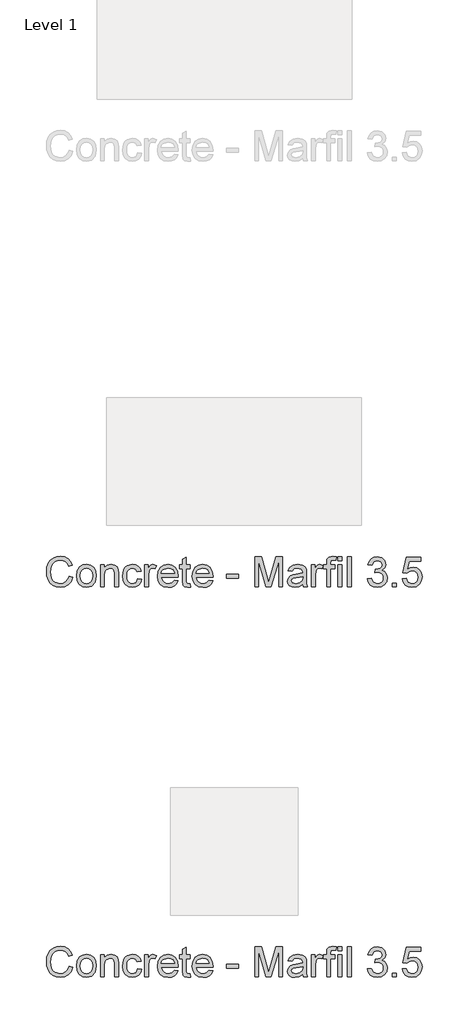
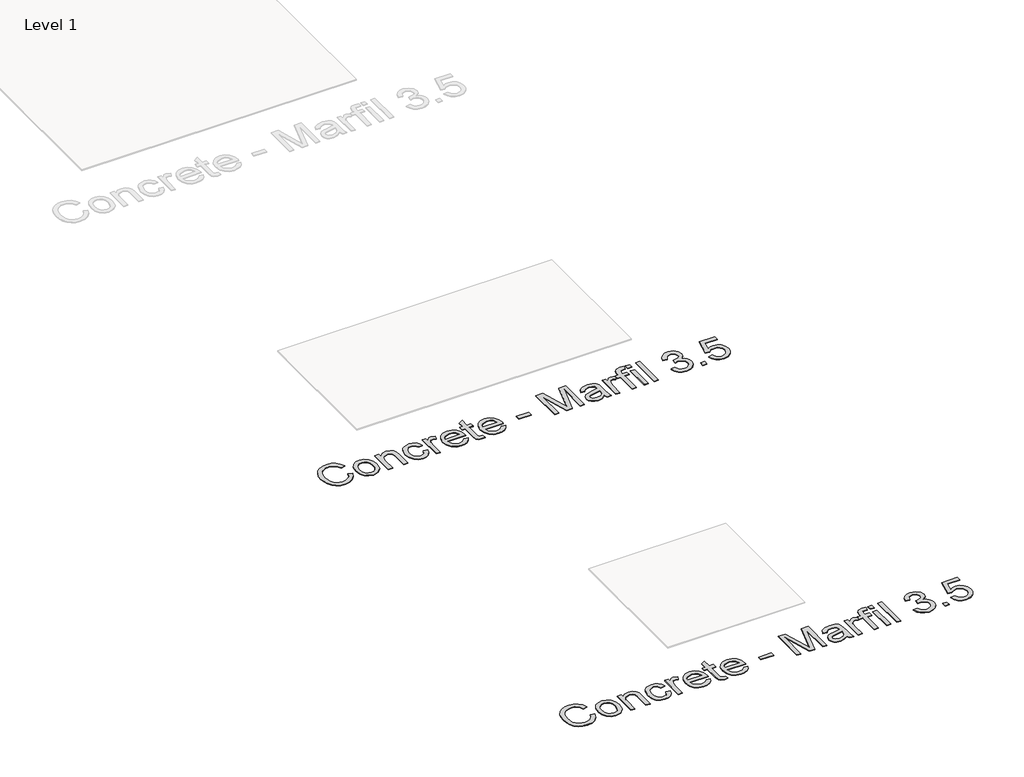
# One storey, part 41 of 80: 2 proxies.
"""IFC4 building model written with IfcOpenShell, lengths in millimetres."""

from ifc_helpers import new_model, si_unit, origin, origin_with_axes, place, context, project, spatial, polyline, outline, extrude, element, save

model = new_model("IFC4")

# Units and contexts
model_context = context("Model", 3, world=origin())
ifc_project = project(units=[si_unit("LENGTHUNIT", "METRE", prefix="MILLI")], contexts=[model_context])

# Site, building, storey
site = spatial("IfcSite", under=ifc_project)
building = spatial("IfcBuilding", under=site)
storey = spatial("IfcBuildingStorey", under=building, Name="Level 1", Elevation=0.0)

# Proxies
placement = place(None, origin())
element("IfcBuildingElementProxy", 1, Name="24\" Arial", ObjectType="24\" Arial", at=placement, inside=storey, context=model_context, shape_type="SweptSolid", body=[
    extrude(outline(polyline([(-26653.5376464, 7154.1947573), (-26638.7684156, 7150.387065), (-26645.5833194, 7133.1767284), (-26656.278031, 7120.6034111), (-26670.3261079, 7112.9123053), (-26687.2011079, 7110.3486034), (-26704.3321175, 7112.2885073), (-26717.9366848, 7118.1082188), (-26728.3645694, 7127.605815), (-26735.965531, 7140.5793727), (-26740.606156, 7155.8317765), (-26742.153031, 7172.1659111), (-26740.4042329, 7189.3942765), (-26735.1578387, 7204.2716803), (-26726.6878867, 7216.3257669), (-26715.2684156, 7225.0841803), (-26701.7251464, 7230.417113), (-26686.8838002, 7232.1947573), (-26670.6902906, 7229.8942765), (-26657.3020694, 7222.9928342), (-26647.137406, 7211.9159111), (-26640.6145694, 7197.088988), (-26655.3838002, 7193.5697573), (-26660.5039925, 7204.34019), (-26667.4991848, 7211.7284111), (-26676.4559156, 7216.0012477), (-26687.4607233, 7217.4255265), (-26700.1458194, 7215.8461996), (-26710.5664925, 7211.1082188), (-26718.4739444, 7203.7091803), (-26723.6193771, 7194.1466803), (-26727.3838002, 7172.1947573), (-26722.9270694, 7146.7524496), (-26717.2299541, 7137.2512477), (-26709.0520694, 7130.4976419), (-26688.6722617, 7125.1178342), (-26676.3441367, 7126.949565), (-26666.0713002, 7132.4447573), (-26658.3152906, 7141.5457188), (-26653.5376464, 7154.1947573)])), origin_with_axes(), (0.0, 0.0, 1.0), 2.0),
    extrude(outline(polyline([(-26623.9991848, 7155.5793727), (-26620.8044733, 7176.5000457), (-26611.2203387, 7191.2043727), (-26599.3789925, 7198.4086996), (-26585.2011079, 7200.8101419), (-26569.6854829, 7197.885863), (-26557.2924541, 7189.1130265), (-26549.168656, 7175.18394), (-26546.4607233, 7156.7909111), (-26551.2491848, 7130.512065), (-26565.1963002, 7115.6418727), (-26585.2011079, 7110.3486034), (-26600.9042329, 7113.262065), (-26613.2828387, 7122.0024496), (-26621.3200983, 7136.2236034), (-26623.9991848, 7155.5793727)]), holes=[polyline([(-26609.2299541, 7155.6082188), (-26607.5208194, 7142.2416323), (-26602.3934156, 7132.7187957), (-26594.6770694, 7127.0180746), (-26585.2011079, 7125.1178342), (-26575.7684156, 7127.0288919), (-26568.0664925, 7132.762065), (-26562.9390887, 7142.4111034), (-26561.2299541, 7156.0697573), (-26562.949906, 7169.0469207), (-26568.1097617, 7178.4399496), (-26575.8225021, 7184.1406707), (-26585.2011079, 7186.0409111), (-26594.6770694, 7184.1478823), (-26602.3934156, 7178.4687957), (-26607.5208194, 7168.9675938), (-26609.2299541, 7155.6082188)])]), origin_with_axes(), (0.0, 0.0, 1.0), 2.0),
    extrude(outline(polyline([(-26529.8453387, 7112.1947573), (-26529.8453387, 7198.963988), (-26515.0761079, 7198.963988), (-26515.0761079, 7186.8486034), (-26503.7828387, 7197.3197573), (-26488.3645694, 7200.8101419), (-26474.4174541, 7197.9976419), (-26464.8982233, 7190.6130265), (-26460.4703387, 7179.7524496), (-26459.6914925, 7165.4736034), (-26459.6914925, 7112.1947573), (-26474.4607233, 7112.1947573), (-26474.4607233, 7163.4832188), (-26476.1626464, 7176.5505265), (-26482.1770694, 7183.4591803), (-26492.3164925, 7186.0409111), (-26508.340531, 7180.2428342), (-26513.3922137, 7171.8413919), (-26515.0761079, 7158.2332188), (-26515.0761079, 7112.1947573), (-26529.8453387, 7112.1947573)])), origin_with_axes(), (0.0, 0.0, 1.0), 2.0),
    extrude(outline(polyline([(-26383.9991848, 7143.5793727), (-26369.2299541, 7141.7332188), (-26373.3477425, 7128.5974015), (-26381.0857233, 7118.6707188), (-26391.715531, 7112.4291323), (-26404.5088002, 7110.3486034), (-26420.2191367, 7113.2512477), (-26432.5039925, 7121.9591803), (-26440.4330791, 7136.09019), (-26443.0761079, 7155.262065), (-26438.5616848, 7179.7957188), (-26432.8645694, 7188.9940361), (-26424.8020694, 7195.5601419), (-26404.7107233, 7200.8101419), (-26392.231156, 7199.0072573), (-26382.2539925, 7193.5986034), (-26375.0965406, 7184.8726419), (-26371.0761079, 7173.1178342), (-26385.8453387, 7171.2716803), (-26392.6963002, 7182.3341803), (-26404.5953387, 7186.0409111), (-26414.1398098, 7184.2163919), (-26421.715531, 7178.7428342), (-26426.6590406, 7169.324565), (-26428.3068771, 7155.6659111), (-26426.6950983, 7141.823363), (-26421.8597617, 7132.3726419), (-26414.4210598, 7126.9315361), (-26404.9991848, 7125.1178342), (-26391.0809156, 7129.6466803), (-26383.9991848, 7143.5793727)])), origin_with_axes(), (0.0, 0.0, 1.0), 2.0),
    extrude(outline(polyline([(-26356.3068771, 7112.1947573), (-26356.3068771, 7198.963988), (-26343.3838002, 7198.963988), (-26343.3838002, 7186.1274496), (-26334.2107233, 7197.9543727), (-26324.9799541, 7200.8101419), (-26310.153031, 7196.2524496), (-26315.0857233, 7183.012065), (-26325.4703387, 7186.0409111), (-26333.8213002, 7183.1274496), (-26339.1434156, 7175.0505265), (-26341.5376464, 7157.8005265), (-26341.5376464, 7112.1947573), (-26356.3068771, 7112.1947573)])), origin_with_axes(), (0.0, 0.0, 1.0), 2.0),
    extrude(outline(polyline([(-26240.1722617, 7138.0409111), (-26225.6914925, 7136.1947573), (-26230.9090406, 7125.2836996), (-26239.2347617, 7117.1274496), (-26250.481156, 7112.043315), (-26264.4607233, 7110.3486034), (-26281.7900502, 7113.2728823), (-26295.1241848, 7122.0457188), (-26303.6265887, 7136.0974015), (-26306.4607233, 7154.8582188), (-26303.5977425, 7174.2500457), (-26295.0088002, 7188.7524496), (-26281.8549541, 7197.7957188), (-26265.2972617, 7200.8101419), (-26249.2551944, 7197.8029303), (-26236.4366848, 7188.7812957), (-26228.0316367, 7174.307738), (-26225.2299541, 7154.9447573), (-26225.3164925, 7150.963988), (-26291.6914925, 7150.963988), (-26289.1350021, 7139.9086996), (-26283.1963002, 7131.7812957), (-26274.6253867, 7126.7836996), (-26264.1722617, 7125.1178342), (-26249.6914925, 7128.2043727), (-26240.1722617, 7138.0409111)]), holes=[polyline([(-26291.6914925, 7165.7332188), (-26239.9991848, 7165.7332188), (-26245.9126464, 7179.1178342), (-26254.5232233, 7184.3101419), (-26265.3549541, 7186.0409111), (-26283.5424541, 7180.5168727), (-26289.2648098, 7174.05894), (-26291.6914925, 7165.7332188)])]), origin_with_axes(), (0.0, 0.0, 1.0), 2.0),
    extrude(outline(polyline([(-26179.0761079, 7124.512065), (-26177.2299541, 7111.762065), (-26188.278031, 7110.3486034), (-26200.653031, 7112.8005265), (-26206.8261079, 7119.2332188), (-26208.6145694, 7135.9928342), (-26208.6145694, 7184.1947573), (-26219.6914925, 7184.1947573), (-26219.6914925, 7198.963988), (-26208.6145694, 7198.963988), (-26208.6145694, 7220.0505265), (-26193.8453387, 7228.7332188), (-26193.8453387, 7198.963988), (-26179.0761079, 7198.963988), (-26179.0761079, 7184.1947573), (-26193.8453387, 7184.1947573), (-26193.8453387, 7136.4255265), (-26193.0664925, 7128.8101419), (-26190.5424541, 7126.1130265), (-26185.5088002, 7125.1178342), (-26179.0761079, 7124.512065)])), origin_with_axes(), (0.0, 0.0, 1.0), 2.0),
    extrude(outline(polyline([(-26103.5568771, 7138.0409111), (-26089.0761079, 7136.1947573), (-26094.293656, 7125.2836996), (-26102.6193771, 7117.1274496), (-26113.8657714, 7112.043315), (-26127.8453387, 7110.3486034), (-26145.1746656, 7113.2728823), (-26158.5088002, 7122.0457188), (-26167.0112041, 7136.0974015), (-26169.8453387, 7154.8582188), (-26166.9823579, 7174.2500457), (-26158.3934156, 7188.7524496), (-26145.2395694, 7197.7957188), (-26128.6818771, 7200.8101419), (-26112.6398098, 7197.8029303), (-26099.8213002, 7188.7812957), (-26091.4162521, 7174.307738), (-26088.6145694, 7154.9447573), (-26088.7011079, 7150.963988), (-26155.0761079, 7150.963988), (-26152.5196175, 7139.9086996), (-26146.5809156, 7131.7812957), (-26138.0100021, 7126.7836996), (-26127.5568771, 7125.1178342), (-26113.0761079, 7128.2043727), (-26103.5568771, 7138.0409111)]), holes=[polyline([(-26155.0761079, 7165.7332188), (-26103.3838002, 7165.7332188), (-26109.2972617, 7179.1178342), (-26117.9078387, 7184.3101419), (-26128.7395694, 7186.0409111), (-26146.9270694, 7180.5168727), (-26152.6494252, 7174.05894), (-26155.0761079, 7165.7332188)])]), origin_with_axes(), (0.0, 0.0, 1.0), 2.0),
    extrude(outline(polyline([(-26035.0761079, 7147.2716803), (-26035.0761079, 7162.0409111), (-25988.9222617, 7162.0409111), (-25988.9222617, 7147.2716803), (-26035.0761079, 7147.2716803)])), origin_with_axes(), (0.0, 0.0, 1.0), 2.0),
    extrude(outline(polyline([(-25924.3068771, 7112.1947573), (-25924.3068771, 7230.3486034), (-25898.8934156, 7230.3486034), (-25874.7203387, 7147.0697573), (-25869.8453387, 7129.6755265), (-25864.5664925, 7148.512065), (-25840.7972617, 7230.3486034), (-25815.3838002, 7230.3486034), (-25815.3838002, 7112.1947573), (-25830.153031, 7112.1947573), (-25830.153031, 7215.5793727), (-25859.8357233, 7112.1947573), (-25879.8549541, 7112.1947573), (-25909.5376464, 7215.5793727), (-25909.5376464, 7112.1947573), (-25924.3068771, 7112.1947573)])), origin_with_axes(), (0.0, 0.0, 1.0), 2.0),
    extrude(outline(polyline([(-25735.9991848, 7123.2716803), (-25750.3213002, 7113.262065), (-25766.1434156, 7110.3486034), (-25778.4859637, 7112.1010073), (-25787.590531, 7117.3582188), (-25793.2047137, 7125.3413919), (-25795.0761079, 7135.2716803), (-25792.2491848, 7146.9543727), (-25784.8213002, 7155.4351419), (-25774.4799541, 7160.2812957), (-25761.7011079, 7162.5024496), (-25736.0857233, 7167.5793727), (-25735.9991848, 7170.8678342), (-25740.0664925, 7181.7716803), (-25756.3934156, 7186.0409111), (-25771.3357233, 7183.199565), (-25778.4607233, 7173.1178342), (-25793.2299541, 7174.963988), (-25786.840531, 7189.387065), (-25773.9751464, 7197.838988), (-25754.4895694, 7200.8101419), (-25736.590531, 7198.1851419), (-25726.4799541, 7191.5937957), (-25721.9511079, 7181.5697573), (-25721.2299541, 7168.6466803), (-25721.2299541, 7150.2716803), (-25720.4799541, 7124.6130265), (-25717.5376464, 7112.1947573), (-25732.3068771, 7112.1947573), (-25735.9991848, 7123.2716803)]), holes=[polyline([(-25735.9991848, 7152.8101419), (-25759.8261079, 7148.2812957), (-25772.5328387, 7145.887065), (-25778.2876464, 7141.9928342), (-25780.3068771, 7136.3101419), (-25775.9078387, 7128.3197573), (-25762.9991848, 7125.1178342), (-25748.0568771, 7128.651488), (-25738.4222617, 7137.2043727), (-25736.0857233, 7148.6274496), (-25735.9991848, 7152.8101419)])]), origin_with_axes(), (0.0, 0.0, 1.0), 2.0),
    extrude(outline(polyline([(-25700.9222617, 7112.1947573), (-25700.9222617, 7198.963988), (-25687.9991848, 7198.963988), (-25687.9991848, 7186.1274496), (-25678.8261079, 7197.9543727), (-25669.5953387, 7200.8101419), (-25654.7684156, 7196.2524496), (-25659.7011079, 7183.012065), (-25670.0857233, 7186.0409111), (-25678.4366848, 7183.1274496), (-25683.7588002, 7175.0505265), (-25686.153031, 7157.8005265), (-25686.153031, 7112.1947573), (-25700.9222617, 7112.1947573)])), origin_with_axes(), (0.0, 0.0, 1.0), 2.0),
    extrude(outline(polyline([(-25641.8453387, 7112.1947573), (-25641.8453387, 7184.1947573), (-25654.7684156, 7184.1947573), (-25654.7684156, 7198.963988), (-25641.8453387, 7198.963988), (-25641.8453387, 7207.7043727), (-25640.2876464, 7220.0216803), (-25632.7299541, 7228.8197573), (-25617.8453387, 7232.1947573), (-25604.3741848, 7230.5793727), (-25606.5376464, 7216.7332188), (-25615.0472617, 7217.4255265), (-25624.3501464, 7214.9736034), (-25627.0761079, 7205.8293727), (-25627.0761079, 7198.963988), (-25610.4607233, 7198.963988), (-25610.4607233, 7184.1947573), (-25627.0761079, 7184.1947573), (-25627.0761079, 7112.1947573), (-25641.8453387, 7112.1947573)])), origin_with_axes(), (0.0, 0.0, 1.0), 2.0),
    extrude(outline(polyline([(-25597.5376464, 7112.1947573), (-25597.5376464, 7198.963988), (-25582.7684156, 7198.963988), (-25582.7684156, 7112.1947573), (-25597.5376464, 7112.1947573)])), origin_with_axes(), (0.0, 0.0, 1.0), 2.0),
    extrude(outline(polyline([(-25597.5376464, 7215.5793727), (-25597.5376464, 7230.3486034), (-25582.7684156, 7230.3486034), (-25582.7684156, 7215.5793727), (-25597.5376464, 7215.5793727)])), origin_with_axes(), (0.0, 0.0, 1.0), 2.0),
    extrude(outline(polyline([(-25560.6145694, 7112.1947573), (-25560.6145694, 7230.3486034), (-25545.8453387, 7230.3486034), (-25545.8453387, 7112.1947573), (-25560.6145694, 7112.1947573)])), origin_with_axes(), (0.0, 0.0, 1.0), 2.0),
    extrude(outline(polyline([(-25481.2299541, 7143.5793727), (-25466.4607233, 7145.4255265), (-25458.3116848, 7129.8774496), (-25443.0664925, 7125.1178342), (-25432.9414925, 7126.7548534), (-25425.1241848, 7131.6659111), (-25420.1265887, 7138.9928342), (-25418.4607233, 7147.8774496), (-25420.1121656, 7156.3113438), (-25425.0664925, 7163.151488), (-25432.5664925, 7167.68394), (-25441.8549541, 7169.1947573), (-25452.2107233, 7167.5793727), (-25450.5664925, 7182.3486034), (-25448.2011079, 7182.1755265), (-25431.4414925, 7186.4159111), (-25425.8597617, 7191.7957188), (-25423.9991848, 7199.4543727), (-25429.3934156, 7211.0072573), (-25443.2972617, 7215.5793727), (-25457.3741848, 7210.963988), (-25464.6145694, 7197.1178342), (-25479.3838002, 7198.963988), (-25475.0352425, 7212.2260073), (-25467.2972617, 7222.1274496), (-25456.7107233, 7228.293315), (-25443.8164925, 7230.3486034), (-25426.0039925, 7226.2957188), (-25413.5424541, 7215.2187957), (-25409.2299541, 7200.3197573), (-25413.3261079, 7186.7043727), (-25425.4414925, 7176.9255265), (-25416.1963002, 7173.1899496), (-25409.3453387, 7166.8293727), (-25405.1049541, 7158.1899496), (-25403.6914925, 7147.6178342), (-25406.5184156, 7133.2236034), (-25414.9991848, 7121.1947573), (-25427.7996656, 7113.0601419), (-25443.5857233, 7110.3486034), (-25457.8645694, 7112.6635073), (-25469.4895694, 7119.6082188), (-25477.5737041, 7130.230815), (-25481.2299541, 7143.5793727)])), origin_with_axes(), (0.0, 0.0, 1.0), 2.0),
    extrude(outline(polyline([(-25383.3838002, 7112.1947573), (-25383.3838002, 7126.963988), (-25368.6145694, 7126.963988), (-25368.6145694, 7112.1947573), (-25383.3838002, 7112.1947573)])), origin_with_axes(), (0.0, 0.0, 1.0), 2.0),
    extrude(outline(polyline([(-25344.6145694, 7143.5793727), (-25329.8453387, 7145.4255265), (-25322.403031, 7130.2091803), (-25306.9703387, 7125.1178342), (-25296.3838002, 7126.8882669), (-25288.4511079, 7132.199565), (-25283.496781, 7140.4387477), (-25281.8453387, 7150.9928342), (-25283.3922137, 7160.9303342), (-25288.0328387, 7168.5312957), (-25295.8032714, 7173.355815), (-25306.7395694, 7174.963988), (-25319.7059156, 7172.3966803), (-25327.9991848, 7165.7332188), (-25342.7684156, 7167.5793727), (-25329.8453387, 7228.5024496), (-25272.6145694, 7228.5024496), (-25272.6145694, 7213.7332188), (-25317.903031, 7213.7332188), (-25324.2203387, 7181.1947573), (-25313.6698579, 7187.5986034), (-25302.6145694, 7189.7332188), (-25288.8152906, 7187.0865842), (-25277.3597617, 7179.1466803), (-25269.6470214, 7167.0457188), (-25267.0761079, 7151.9159111), (-25269.3910117, 7137.1466803), (-25276.3357233, 7124.512065), (-25289.6338002, 7113.8894688), (-25307.028031, 7110.3486034), (-25321.5340406, 7112.6238438), (-25333.090531, 7119.449565), (-25341.012406, 7130.0324977), (-25344.6145694, 7143.5793727)])), origin_with_axes(), (0.0, 0.0, 1.0), 2.0),
])
element("IfcBuildingElementProxy", 2, Name="24\" Arial", ObjectType="24\" Arial", at=placement, inside=storey, context=model_context, shape_type="SweptSolid", body=[
    extrude(outline(polyline([(-26653.5376464, 5624.1947573), (-26638.7684156, 5620.387065), (-26645.5833194, 5603.1767284), (-26656.278031, 5590.6034111), (-26670.3261079, 5582.9123053), (-26687.2011079, 5580.3486034), (-26704.3321175, 5582.2885073), (-26717.9366848, 5588.1082188), (-26728.3645694, 5597.605815), (-26735.965531, 5610.5793727), (-26740.606156, 5625.8317765), (-26742.153031, 5642.1659111), (-26740.4042329, 5659.3942765), (-26735.1578387, 5674.2716803), (-26726.6878867, 5686.3257669), (-26715.2684156, 5695.0841803), (-26701.7251464, 5700.417113), (-26686.8838002, 5702.1947573), (-26670.6902906, 5699.8942765), (-26657.3020694, 5692.9928342), (-26647.137406, 5681.9159111), (-26640.6145694, 5667.088988), (-26655.3838002, 5663.5697573), (-26660.5039925, 5674.34019), (-26667.4991848, 5681.7284111), (-26676.4559156, 5686.0012477), (-26687.4607233, 5687.4255265), (-26700.1458194, 5685.8461996), (-26710.5664925, 5681.1082188), (-26718.4739444, 5673.7091803), (-26723.6193771, 5664.1466803), (-26727.3838002, 5642.1947573), (-26722.9270694, 5616.7524496), (-26717.2299541, 5607.2512477), (-26709.0520694, 5600.4976419), (-26688.6722617, 5595.1178342), (-26676.3441367, 5596.949565), (-26666.0713002, 5602.4447573), (-26658.3152906, 5611.5457188), (-26653.5376464, 5624.1947573)])), origin_with_axes(), (0.0, 0.0, 1.0), 2.0),
    extrude(outline(polyline([(-26623.9991848, 5625.5793727), (-26620.8044733, 5646.5000457), (-26611.2203387, 5661.2043727), (-26599.3789925, 5668.4086996), (-26585.2011079, 5670.8101419), (-26569.6854829, 5667.885863), (-26557.2924541, 5659.1130265), (-26549.168656, 5645.18394), (-26546.4607233, 5626.7909111), (-26551.2491848, 5600.512065), (-26565.1963002, 5585.6418727), (-26585.2011079, 5580.3486034), (-26600.9042329, 5583.262065), (-26613.2828387, 5592.0024496), (-26621.3200983, 5606.2236034), (-26623.9991848, 5625.5793727)]), holes=[polyline([(-26609.2299541, 5625.6082188), (-26607.5208194, 5612.2416323), (-26602.3934156, 5602.7187957), (-26594.6770694, 5597.0180746), (-26585.2011079, 5595.1178342), (-26575.7684156, 5597.0288919), (-26568.0664925, 5602.762065), (-26562.9390887, 5612.4111034), (-26561.2299541, 5626.0697573), (-26562.949906, 5639.0469207), (-26568.1097617, 5648.4399496), (-26575.8225021, 5654.1406707), (-26585.2011079, 5656.0409111), (-26594.6770694, 5654.1478823), (-26602.3934156, 5648.4687957), (-26607.5208194, 5638.9675938), (-26609.2299541, 5625.6082188)])]), origin_with_axes(), (0.0, 0.0, 1.0), 2.0),
    extrude(outline(polyline([(-26529.8453387, 5582.1947573), (-26529.8453387, 5668.963988), (-26515.0761079, 5668.963988), (-26515.0761079, 5656.8486034), (-26503.7828387, 5667.3197573), (-26488.3645694, 5670.8101419), (-26474.4174541, 5667.9976419), (-26464.8982233, 5660.6130265), (-26460.4703387, 5649.7524496), (-26459.6914925, 5635.4736034), (-26459.6914925, 5582.1947573), (-26474.4607233, 5582.1947573), (-26474.4607233, 5633.4832188), (-26476.1626464, 5646.5505265), (-26482.1770694, 5653.4591803), (-26492.3164925, 5656.0409111), (-26508.340531, 5650.2428342), (-26513.3922137, 5641.8413919), (-26515.0761079, 5628.2332188), (-26515.0761079, 5582.1947573), (-26529.8453387, 5582.1947573)])), origin_with_axes(), (0.0, 0.0, 1.0), 2.0),
    extrude(outline(polyline([(-26383.9991848, 5613.5793727), (-26369.2299541, 5611.7332188), (-26373.3477425, 5598.5974015), (-26381.0857233, 5588.6707188), (-26391.715531, 5582.4291323), (-26404.5088002, 5580.3486034), (-26420.2191367, 5583.2512477), (-26432.5039925, 5591.9591803), (-26440.4330791, 5606.09019), (-26443.0761079, 5625.262065), (-26438.5616848, 5649.7957188), (-26432.8645694, 5658.9940361), (-26424.8020694, 5665.5601419), (-26404.7107233, 5670.8101419), (-26392.231156, 5669.0072573), (-26382.2539925, 5663.5986034), (-26375.0965406, 5654.8726419), (-26371.0761079, 5643.1178342), (-26385.8453387, 5641.2716803), (-26392.6963002, 5652.3341803), (-26404.5953387, 5656.0409111), (-26414.1398098, 5654.2163919), (-26421.715531, 5648.7428342), (-26426.6590406, 5639.324565), (-26428.3068771, 5625.6659111), (-26426.6950983, 5611.823363), (-26421.8597617, 5602.3726419), (-26414.4210598, 5596.9315361), (-26404.9991848, 5595.1178342), (-26391.0809156, 5599.6466803), (-26383.9991848, 5613.5793727)])), origin_with_axes(), (0.0, 0.0, 1.0), 2.0),
    extrude(outline(polyline([(-26356.3068771, 5582.1947573), (-26356.3068771, 5668.963988), (-26343.3838002, 5668.963988), (-26343.3838002, 5656.1274496), (-26334.2107233, 5667.9543727), (-26324.9799541, 5670.8101419), (-26310.153031, 5666.2524496), (-26315.0857233, 5653.012065), (-26325.4703387, 5656.0409111), (-26333.8213002, 5653.1274496), (-26339.1434156, 5645.0505265), (-26341.5376464, 5627.8005265), (-26341.5376464, 5582.1947573), (-26356.3068771, 5582.1947573)])), origin_with_axes(), (0.0, 0.0, 1.0), 2.0),
    extrude(outline(polyline([(-26240.1722617, 5608.0409111), (-26225.6914925, 5606.1947573), (-26230.9090406, 5595.2836996), (-26239.2347617, 5587.1274496), (-26250.481156, 5582.043315), (-26264.4607233, 5580.3486034), (-26281.7900502, 5583.2728823), (-26295.1241848, 5592.0457188), (-26303.6265887, 5606.0974015), (-26306.4607233, 5624.8582188), (-26303.5977425, 5644.2500457), (-26295.0088002, 5658.7524496), (-26281.8549541, 5667.7957188), (-26265.2972617, 5670.8101419), (-26249.2551944, 5667.8029303), (-26236.4366848, 5658.7812957), (-26228.0316367, 5644.307738), (-26225.2299541, 5624.9447573), (-26225.3164925, 5620.963988), (-26291.6914925, 5620.963988), (-26289.1350021, 5609.9086996), (-26283.1963002, 5601.7812957), (-26274.6253867, 5596.7836996), (-26264.1722617, 5595.1178342), (-26249.6914925, 5598.2043727), (-26240.1722617, 5608.0409111)]), holes=[polyline([(-26291.6914925, 5635.7332188), (-26239.9991848, 5635.7332188), (-26245.9126464, 5649.1178342), (-26254.5232233, 5654.3101419), (-26265.3549541, 5656.0409111), (-26283.5424541, 5650.5168727), (-26289.2648098, 5644.05894), (-26291.6914925, 5635.7332188)])]), origin_with_axes(), (0.0, 0.0, 1.0), 2.0),
    extrude(outline(polyline([(-26179.0761079, 5594.512065), (-26177.2299541, 5581.762065), (-26188.278031, 5580.3486034), (-26200.653031, 5582.8005265), (-26206.8261079, 5589.2332188), (-26208.6145694, 5605.9928342), (-26208.6145694, 5654.1947573), (-26219.6914925, 5654.1947573), (-26219.6914925, 5668.963988), (-26208.6145694, 5668.963988), (-26208.6145694, 5690.0505265), (-26193.8453387, 5698.7332188), (-26193.8453387, 5668.963988), (-26179.0761079, 5668.963988), (-26179.0761079, 5654.1947573), (-26193.8453387, 5654.1947573), (-26193.8453387, 5606.4255265), (-26193.0664925, 5598.8101419), (-26190.5424541, 5596.1130265), (-26185.5088002, 5595.1178342), (-26179.0761079, 5594.512065)])), origin_with_axes(), (0.0, 0.0, 1.0), 2.0),
    extrude(outline(polyline([(-26103.5568771, 5608.0409111), (-26089.0761079, 5606.1947573), (-26094.293656, 5595.2836996), (-26102.6193771, 5587.1274496), (-26113.8657714, 5582.043315), (-26127.8453387, 5580.3486034), (-26145.1746656, 5583.2728823), (-26158.5088002, 5592.0457188), (-26167.0112041, 5606.0974015), (-26169.8453387, 5624.8582188), (-26166.9823579, 5644.2500457), (-26158.3934156, 5658.7524496), (-26145.2395694, 5667.7957188), (-26128.6818771, 5670.8101419), (-26112.6398098, 5667.8029303), (-26099.8213002, 5658.7812957), (-26091.4162521, 5644.307738), (-26088.6145694, 5624.9447573), (-26088.7011079, 5620.963988), (-26155.0761079, 5620.963988), (-26152.5196175, 5609.9086996), (-26146.5809156, 5601.7812957), (-26138.0100021, 5596.7836996), (-26127.5568771, 5595.1178342), (-26113.0761079, 5598.2043727), (-26103.5568771, 5608.0409111)]), holes=[polyline([(-26155.0761079, 5635.7332188), (-26103.3838002, 5635.7332188), (-26109.2972617, 5649.1178342), (-26117.9078387, 5654.3101419), (-26128.7395694, 5656.0409111), (-26146.9270694, 5650.5168727), (-26152.6494252, 5644.05894), (-26155.0761079, 5635.7332188)])]), origin_with_axes(), (0.0, 0.0, 1.0), 2.0),
    extrude(outline(polyline([(-26035.0761079, 5617.2716803), (-26035.0761079, 5632.0409111), (-25988.9222617, 5632.0409111), (-25988.9222617, 5617.2716803), (-26035.0761079, 5617.2716803)])), origin_with_axes(), (0.0, 0.0, 1.0), 2.0),
    extrude(outline(polyline([(-25924.3068771, 5582.1947573), (-25924.3068771, 5700.3486034), (-25898.8934156, 5700.3486034), (-25874.7203387, 5617.0697573), (-25869.8453387, 5599.6755265), (-25864.5664925, 5618.512065), (-25840.7972617, 5700.3486034), (-25815.3838002, 5700.3486034), (-25815.3838002, 5582.1947573), (-25830.153031, 5582.1947573), (-25830.153031, 5685.5793727), (-25859.8357233, 5582.1947573), (-25879.8549541, 5582.1947573), (-25909.5376464, 5685.5793727), (-25909.5376464, 5582.1947573), (-25924.3068771, 5582.1947573)])), origin_with_axes(), (0.0, 0.0, 1.0), 2.0),
    extrude(outline(polyline([(-25735.9991848, 5593.2716803), (-25750.3213002, 5583.262065), (-25766.1434156, 5580.3486034), (-25778.4859637, 5582.1010073), (-25787.590531, 5587.3582188), (-25793.2047137, 5595.3413919), (-25795.0761079, 5605.2716803), (-25792.2491848, 5616.9543727), (-25784.8213002, 5625.4351419), (-25774.4799541, 5630.2812957), (-25761.7011079, 5632.5024496), (-25736.0857233, 5637.5793727), (-25735.9991848, 5640.8678342), (-25740.0664925, 5651.7716803), (-25756.3934156, 5656.0409111), (-25771.3357233, 5653.199565), (-25778.4607233, 5643.1178342), (-25793.2299541, 5644.963988), (-25786.840531, 5659.387065), (-25773.9751464, 5667.838988), (-25754.4895694, 5670.8101419), (-25736.590531, 5668.1851419), (-25726.4799541, 5661.5937957), (-25721.9511079, 5651.5697573), (-25721.2299541, 5638.6466803), (-25721.2299541, 5620.2716803), (-25720.4799541, 5594.6130265), (-25717.5376464, 5582.1947573), (-25732.3068771, 5582.1947573), (-25735.9991848, 5593.2716803)]), holes=[polyline([(-25735.9991848, 5622.8101419), (-25759.8261079, 5618.2812957), (-25772.5328387, 5615.887065), (-25778.2876464, 5611.9928342), (-25780.3068771, 5606.3101419), (-25775.9078387, 5598.3197573), (-25762.9991848, 5595.1178342), (-25748.0568771, 5598.651488), (-25738.4222617, 5607.2043727), (-25736.0857233, 5618.6274496), (-25735.9991848, 5622.8101419)])]), origin_with_axes(), (0.0, 0.0, 1.0), 2.0),
    extrude(outline(polyline([(-25700.9222617, 5582.1947573), (-25700.9222617, 5668.963988), (-25687.9991848, 5668.963988), (-25687.9991848, 5656.1274496), (-25678.8261079, 5667.9543727), (-25669.5953387, 5670.8101419), (-25654.7684156, 5666.2524496), (-25659.7011079, 5653.012065), (-25670.0857233, 5656.0409111), (-25678.4366848, 5653.1274496), (-25683.7588002, 5645.0505265), (-25686.153031, 5627.8005265), (-25686.153031, 5582.1947573), (-25700.9222617, 5582.1947573)])), origin_with_axes(), (0.0, 0.0, 1.0), 2.0),
    extrude(outline(polyline([(-25641.8453387, 5582.1947573), (-25641.8453387, 5654.1947573), (-25654.7684156, 5654.1947573), (-25654.7684156, 5668.963988), (-25641.8453387, 5668.963988), (-25641.8453387, 5677.7043727), (-25640.2876464, 5690.0216803), (-25632.7299541, 5698.8197573), (-25617.8453387, 5702.1947573), (-25604.3741848, 5700.5793727), (-25606.5376464, 5686.7332188), (-25615.0472617, 5687.4255265), (-25624.3501464, 5684.9736034), (-25627.0761079, 5675.8293727), (-25627.0761079, 5668.963988), (-25610.4607233, 5668.963988), (-25610.4607233, 5654.1947573), (-25627.0761079, 5654.1947573), (-25627.0761079, 5582.1947573), (-25641.8453387, 5582.1947573)])), origin_with_axes(), (0.0, 0.0, 1.0), 2.0),
    extrude(outline(polyline([(-25597.5376464, 5582.1947573), (-25597.5376464, 5668.963988), (-25582.7684156, 5668.963988), (-25582.7684156, 5582.1947573), (-25597.5376464, 5582.1947573)])), origin_with_axes(), (0.0, 0.0, 1.0), 2.0),
    extrude(outline(polyline([(-25597.5376464, 5685.5793727), (-25597.5376464, 5700.3486034), (-25582.7684156, 5700.3486034), (-25582.7684156, 5685.5793727), (-25597.5376464, 5685.5793727)])), origin_with_axes(), (0.0, 0.0, 1.0), 2.0),
    extrude(outline(polyline([(-25560.6145694, 5582.1947573), (-25560.6145694, 5700.3486034), (-25545.8453387, 5700.3486034), (-25545.8453387, 5582.1947573), (-25560.6145694, 5582.1947573)])), origin_with_axes(), (0.0, 0.0, 1.0), 2.0),
    extrude(outline(polyline([(-25481.2299541, 5613.5793727), (-25466.4607233, 5615.4255265), (-25458.3116848, 5599.8774496), (-25443.0664925, 5595.1178342), (-25432.9414925, 5596.7548534), (-25425.1241848, 5601.6659111), (-25420.1265887, 5608.9928342), (-25418.4607233, 5617.8774496), (-25420.1121656, 5626.3113438), (-25425.0664925, 5633.151488), (-25432.5664925, 5637.68394), (-25441.8549541, 5639.1947573), (-25452.2107233, 5637.5793727), (-25450.5664925, 5652.3486034), (-25448.2011079, 5652.1755265), (-25431.4414925, 5656.4159111), (-25425.8597617, 5661.7957188), (-25423.9991848, 5669.4543727), (-25429.3934156, 5681.0072573), (-25443.2972617, 5685.5793727), (-25457.3741848, 5680.963988), (-25464.6145694, 5667.1178342), (-25479.3838002, 5668.963988), (-25475.0352425, 5682.2260073), (-25467.2972617, 5692.1274496), (-25456.7107233, 5698.293315), (-25443.8164925, 5700.3486034), (-25426.0039925, 5696.2957188), (-25413.5424541, 5685.2187957), (-25409.2299541, 5670.3197573), (-25413.3261079, 5656.7043727), (-25425.4414925, 5646.9255265), (-25416.1963002, 5643.1899496), (-25409.3453387, 5636.8293727), (-25405.1049541, 5628.1899496), (-25403.6914925, 5617.6178342), (-25406.5184156, 5603.2236034), (-25414.9991848, 5591.1947573), (-25427.7996656, 5583.0601419), (-25443.5857233, 5580.3486034), (-25457.8645694, 5582.6635073), (-25469.4895694, 5589.6082188), (-25477.5737041, 5600.230815), (-25481.2299541, 5613.5793727)])), origin_with_axes(), (0.0, 0.0, 1.0), 2.0),
    extrude(outline(polyline([(-25383.3838002, 5582.1947573), (-25383.3838002, 5596.963988), (-25368.6145694, 5596.963988), (-25368.6145694, 5582.1947573), (-25383.3838002, 5582.1947573)])), origin_with_axes(), (0.0, 0.0, 1.0), 2.0),
    extrude(outline(polyline([(-25344.6145694, 5613.5793727), (-25329.8453387, 5615.4255265), (-25322.403031, 5600.2091803), (-25306.9703387, 5595.1178342), (-25296.3838002, 5596.8882669), (-25288.4511079, 5602.199565), (-25283.496781, 5610.4387477), (-25281.8453387, 5620.9928342), (-25283.3922137, 5630.9303342), (-25288.0328387, 5638.5312957), (-25295.8032714, 5643.355815), (-25306.7395694, 5644.963988), (-25319.7059156, 5642.3966803), (-25327.9991848, 5635.7332188), (-25342.7684156, 5637.5793727), (-25329.8453387, 5698.5024496), (-25272.6145694, 5698.5024496), (-25272.6145694, 5683.7332188), (-25317.903031, 5683.7332188), (-25324.2203387, 5651.1947573), (-25313.6698579, 5657.5986034), (-25302.6145694, 5659.7332188), (-25288.8152906, 5657.0865842), (-25277.3597617, 5649.1466803), (-25269.6470214, 5637.0457188), (-25267.0761079, 5621.9159111), (-25269.3910117, 5607.1466803), (-25276.3357233, 5594.512065), (-25289.6338002, 5583.8894688), (-25307.028031, 5580.3486034), (-25321.5340406, 5582.6238438), (-25333.090531, 5589.449565), (-25341.012406, 5600.0324977), (-25344.6145694, 5613.5793727)])), origin_with_axes(), (0.0, 0.0, 1.0), 2.0),
])

save(model, "model.ifc")
